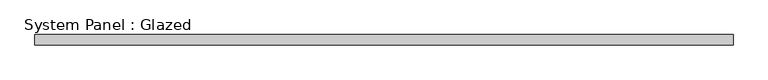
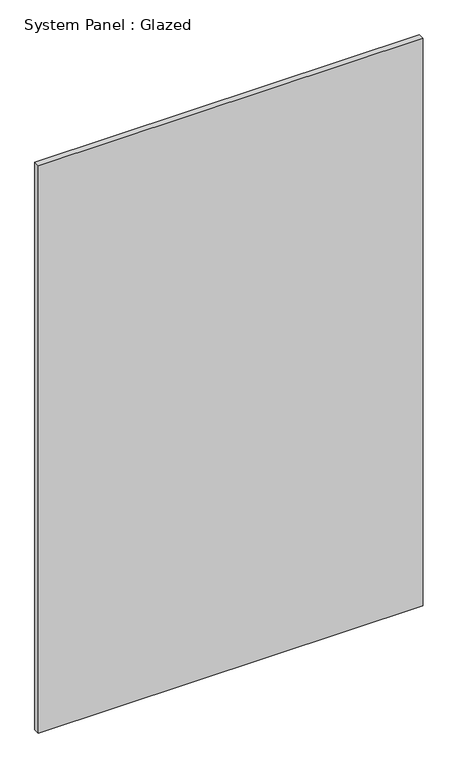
"""IFC4 building model written with IfcOpenShell, lengths in millimetres: plate geometry, System Panel : Glazed."""

from ifc_helpers import new_model, si_unit, origin, origin_with_axes, place, context, project, spatial, polyline, outline, extrude, source, transform, mapped, element, save


def system_panel_glazed_d21a083e(model_context):
    return source(origin(), model_context, "Body", "SweptSolid", [
        extrude(outline(polyline([(855.4684602, 19.05), (-855.4684602, 19.05), (-855.4684602, 44.45), (855.4684602, 44.45), (855.4684602, 19.05)])), origin_with_axes(), (0.0, 0.0, 1.0), 2666.6267362),
    ])


if __name__ == "__main__":
    model = new_model("IFC4")
    model_context = context("Model", 3, world=origin())
    ifc_project = project(units=[si_unit("LENGTHUNIT", "METRE", prefix="MILLI")], contexts=[model_context])
    site = spatial("IfcSite", under=ifc_project)
    building = spatial("IfcBuilding", under=site)
    placement = place(None, origin())
    system_panel_glazed_shape = system_panel_glazed_d21a083e(model_context)
    element("IfcPlate", 1, ObjectType="System Panel : Glazed", at=placement, inside=building, context=model_context, shape_type="MappedRepresentation", body=[
        mapped(system_panel_glazed_shape, transform((0.0, 0.0, 0.0), x_axis=(1.0, 0.0, 0.0), y_axis=(0.0, 1.0, 0.0), z_axis=(0.0, 0.0, 1.0))),
    ])
    save(model, "model.ifc")
